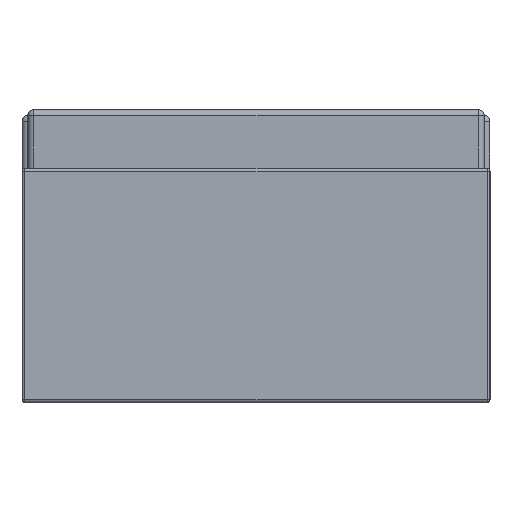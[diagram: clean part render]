
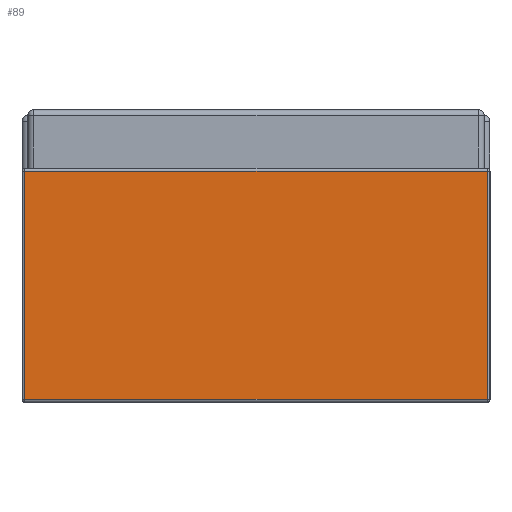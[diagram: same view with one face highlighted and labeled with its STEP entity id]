
A CAD part, left-side view. The second image highlights one B-rep face of the part: STEP entity #89.
In plain terms, the highlighted planar face has unit normal (-1, 0, 0).
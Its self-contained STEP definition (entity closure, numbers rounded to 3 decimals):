
#89=ADVANCED_FACE('',(#810),#812,.T.);
#810=FACE_BOUND('',#811,.T.);
#811=EDGE_LOOP('',(#1541,#1542,#1543,#1544));
#812=PLANE('',#813);
#813=AXIS2_PLACEMENT_3D('',#814,#815,#816);
#814=CARTESIAN_POINT('',(-0.8,0.4,0.));
#815=DIRECTION('',(-1.,0.,0.));
#816=DIRECTION('',(0.,-1.,0.));
#1541=ORIENTED_EDGE('',*,*,#1990,.T.);
#1542=ORIENTED_EDGE('',*,*,#1991,.T.);
#1543=ORIENTED_EDGE('',*,*,#1992,.F.);
#1544=ORIENTED_EDGE('',*,*,#1993,.F.);
#1990=EDGE_CURVE('',#2248,#2249,#2250,.T.);
#1991=EDGE_CURVE('',#2249,#2251,#2252,.T.);
#1992=EDGE_CURVE('',#2253,#2251,#2254,.T.);
#1993=EDGE_CURVE('',#2248,#2253,#2255,.T.);
#2248=VERTEX_POINT('',#2539);
#2249=VERTEX_POINT('',#2540);
#2250=LINE('',#2541,#2542);
#2251=VERTEX_POINT('',#2544);
#2252=LINE('',#2545,#2546);
#2253=VERTEX_POINT('',#2548);
#2254=LINE('',#2549,#2550);
#2255=LINE('',#2552,#2553);
#2539=CARTESIAN_POINT('',(-0.8,0.395,0.005));
#2540=CARTESIAN_POINT('',(-0.8,-0.395,0.005));
#2541=CARTESIAN_POINT('',(-0.8,0.395,0.005));
#2542=VECTOR('',#2543,1.);
#2543=DIRECTION('',(0.,-1.,0.));
#2544=CARTESIAN_POINT('',(-0.8,-0.395,0.395));
#2545=CARTESIAN_POINT('',(-0.8,-0.395,0.005));
#2546=VECTOR('',#2547,1.);
#2547=DIRECTION('',(0.,0.,1.));
#2548=CARTESIAN_POINT('',(-0.8,0.395,0.395));
#2549=CARTESIAN_POINT('',(-0.8,0.395,0.395));
#2550=VECTOR('',#2551,1.);
#2551=DIRECTION('',(0.,-1.,0.));
#2552=CARTESIAN_POINT('',(-0.8,0.395,0.005));
#2553=VECTOR('',#2554,1.);
#2554=DIRECTION('',(0.,0.,1.));
